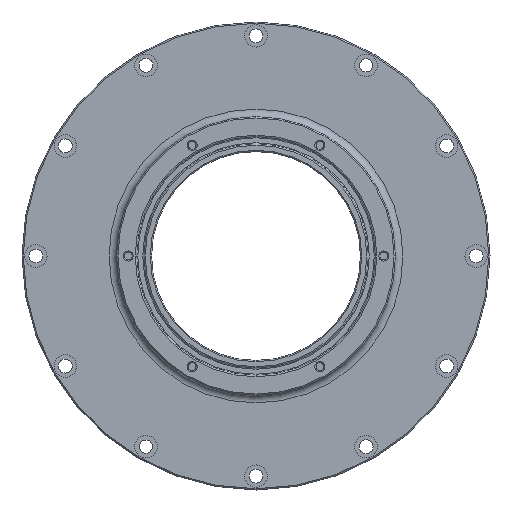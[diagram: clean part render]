
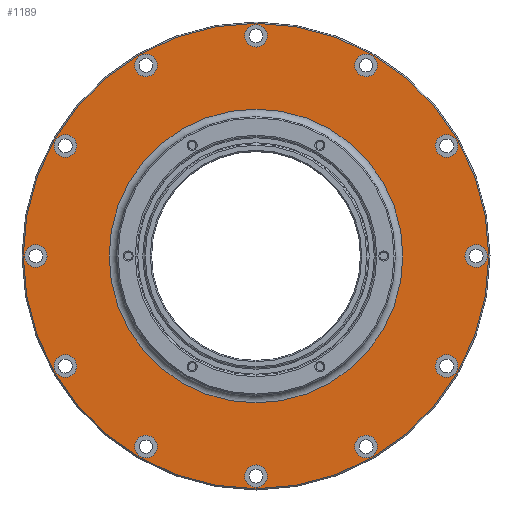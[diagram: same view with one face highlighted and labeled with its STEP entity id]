
A CAD part, left-side view. The second image highlights one B-rep face of the part: STEP entity #1189.
In plain terms, the highlighted planar face has unit normal (-1, 0, 0).
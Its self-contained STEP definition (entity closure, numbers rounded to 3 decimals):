
#849 = VERTEX_POINT('',#850);
#850 = CARTESIAN_POINT('',(0.,150.,41.));
#856 = EDGE_CURVE('',#849,#849,#857,.T.);
#857 = CIRCLE('',#858,92.5);
#858 = AXIS2_PLACEMENT_3D('',#859,#860,#861);
#859 = CARTESIAN_POINT('',(0.,150.,133.5));
#860 = DIRECTION('',(1.,-0.,0.));
#861 = DIRECTION('',(0.,0.,-1.));
#874 = VERTEX_POINT('',#875);
#875 = CARTESIAN_POINT('',(0.,71.973,173.353
    ));
#883 = EDGE_CURVE('',#874,#874,#884,.T.);
#884 = CIRCLE('',#885,4.5);
#885 = AXIS2_PLACEMENT_3D('',#886,#887,#888);
#886 = CARTESIAN_POINT('',(0.,74.223,177.25
    ));
#887 = DIRECTION('',(1.,0.,0.));
#888 = DIRECTION('',(0.,-0.5,-0.866));
#899 = VERTEX_POINT('',#900);
#900 = CARTESIAN_POINT('',(0.,108.5,
    205.38));
#908 = EDGE_CURVE('',#899,#899,#909,.T.);
#909 = CIRCLE('',#910,4.5);
#910 = AXIS2_PLACEMENT_3D('',#911,#912,#913);
#911 = CARTESIAN_POINT('',(0.,106.25,
    209.277));
#912 = DIRECTION('',(1.,-0.,0.));
#913 = DIRECTION('',(0.,0.5,-0.866));
#924 = VERTEX_POINT('',#925);
#925 = CARTESIAN_POINT('',(0.,62.5,129.));
#933 = EDGE_CURVE('',#924,#924,#934,.T.);
#934 = CIRCLE('',#935,4.5);
#935 = AXIS2_PLACEMENT_3D('',#936,#937,#938);
#936 = CARTESIAN_POINT('',(0.,62.5,133.5));
#937 = DIRECTION('',(1.,-0.,0.));
#938 = DIRECTION('',(0.,0.,-1.));
#949 = VERTEX_POINT('',#950);
#950 = CARTESIAN_POINT('',(0.,76.473,
    85.853));
#958 = EDGE_CURVE('',#949,#949,#959,.T.);
#959 = CIRCLE('',#960,4.5);
#960 = AXIS2_PLACEMENT_3D('',#961,#962,#963);
#961 = CARTESIAN_POINT('',(0.,74.223,
    89.75));
#962 = DIRECTION('',(1.,-0.,0.));
#963 = DIRECTION('',(0.,0.5,-0.866));
#974 = VERTEX_POINT('',#975);
#975 = CARTESIAN_POINT('',(0.,104.,53.826
    ));
#983 = EDGE_CURVE('',#974,#974,#984,.T.);
#984 = CIRCLE('',#985,4.5);
#985 = AXIS2_PLACEMENT_3D('',#986,#987,#988);
#986 = CARTESIAN_POINT('',(0.,106.25,57.723
    ));
#987 = DIRECTION('',(1.,0.,0.));
#988 = DIRECTION('',(0.,-0.5,-0.866));
#999 = VERTEX_POINT('',#1000);
#1000 = CARTESIAN_POINT('',(0.,150.,216.5));
#1008 = EDGE_CURVE('',#999,#999,#1009,.T.);
#1009 = CIRCLE('',#1010,4.5);
#1010 = AXIS2_PLACEMENT_3D('',#1011,#1012,#1013);
#1011 = CARTESIAN_POINT('',(0.,150.,221.));
#1012 = DIRECTION('',(1.,-0.,0.));
#1013 = DIRECTION('',(0.,0.,-1.));
#1024 = VERTEX_POINT('',#1025);
#1025 = CARTESIAN_POINT('',(0.,191.5,205.38
    ));
#1033 = EDGE_CURVE('',#1024,#1024,#1034,.T.);
#1034 = CIRCLE('',#1035,4.5);
#1035 = AXIS2_PLACEMENT_3D('',#1036,#1037,#1038);
#1036 = CARTESIAN_POINT('',(0.,193.75,
    209.277));
#1037 = DIRECTION('',(1.,0.,0.));
#1038 = DIRECTION('',(0.,-0.5,-0.866));
#1049 = VERTEX_POINT('',#1050);
#1050 = CARTESIAN_POINT('',(0.,228.027,
    173.353));
#1058 = EDGE_CURVE('',#1049,#1049,#1059,.T.);
#1059 = CIRCLE('',#1060,4.5);
#1060 = AXIS2_PLACEMENT_3D('',#1061,#1062,#1063);
#1061 = CARTESIAN_POINT('',(0.,225.777,
    177.25));
#1062 = DIRECTION('',(1.,-0.,0.));
#1063 = DIRECTION('',(0.,0.5,-0.866));
#1074 = VERTEX_POINT('',#1075);
#1075 = CARTESIAN_POINT('',(0.,150.,41.5));
#1083 = EDGE_CURVE('',#1074,#1074,#1084,.T.);
#1084 = CIRCLE('',#1085,4.5);
#1085 = AXIS2_PLACEMENT_3D('',#1086,#1087,#1088);
#1086 = CARTESIAN_POINT('',(0.,150.,46.));
#1087 = DIRECTION('',(1.,-0.,0.));
#1088 = DIRECTION('',(0.,0.,-1.));
#1099 = VERTEX_POINT('',#1100);
#1100 = CARTESIAN_POINT('',(0.,196.,
    53.826));
#1108 = EDGE_CURVE('',#1099,#1099,#1109,.T.);
#1109 = CIRCLE('',#1110,4.5);
#1110 = AXIS2_PLACEMENT_3D('',#1111,#1112,#1113);
#1111 = CARTESIAN_POINT('',(0.,193.75,
    57.723));
#1112 = DIRECTION('',(1.,-0.,0.));
#1113 = DIRECTION('',(0.,0.5,-0.866));
#1124 = VERTEX_POINT('',#1125);
#1125 = CARTESIAN_POINT('',(0.,237.5,129.));
#1133 = EDGE_CURVE('',#1124,#1124,#1134,.T.);
#1134 = CIRCLE('',#1135,4.5);
#1135 = AXIS2_PLACEMENT_3D('',#1136,#1137,#1138);
#1136 = CARTESIAN_POINT('',(0.,237.5,133.5));
#1137 = DIRECTION('',(1.,-0.,0.));
#1138 = DIRECTION('',(0.,0.,-1.));
#1149 = VERTEX_POINT('',#1150);
#1150 = CARTESIAN_POINT('',(0.,223.527,
    85.853));
#1158 = EDGE_CURVE('',#1149,#1149,#1159,.T.);
#1159 = CIRCLE('',#1160,4.5);
#1160 = AXIS2_PLACEMENT_3D('',#1161,#1162,#1163);
#1161 = CARTESIAN_POINT('',(0.,225.777,
    89.75));
#1162 = DIRECTION('',(1.,0.,0.));
#1163 = DIRECTION('',(0.,-0.5,-0.866));
#1189 = ADVANCED_FACE('',(#1190,#1193,#1196,#1199,#1202,#1205,#1208,
    #1211,#1214,#1217,#1228,#1231,#1234,#1237),#1240,.F.);
#1190 = FACE_BOUND('',#1191,.F.);
#1191 = EDGE_LOOP('',(#1192));
#1192 = ORIENTED_EDGE('',*,*,#856,.T.);
#1193 = FACE_BOUND('',#1194,.F.);
#1194 = EDGE_LOOP('',(#1195));
#1195 = ORIENTED_EDGE('',*,*,#883,.F.);
#1196 = FACE_BOUND('',#1197,.F.);
#1197 = EDGE_LOOP('',(#1198));
#1198 = ORIENTED_EDGE('',*,*,#908,.F.);
#1199 = FACE_BOUND('',#1200,.F.);
#1200 = EDGE_LOOP('',(#1201));
#1201 = ORIENTED_EDGE('',*,*,#933,.F.);
#1202 = FACE_BOUND('',#1203,.F.);
#1203 = EDGE_LOOP('',(#1204));
#1204 = ORIENTED_EDGE('',*,*,#958,.F.);
#1205 = FACE_BOUND('',#1206,.F.);
#1206 = EDGE_LOOP('',(#1207));
#1207 = ORIENTED_EDGE('',*,*,#983,.F.);
#1208 = FACE_BOUND('',#1209,.F.);
#1209 = EDGE_LOOP('',(#1210));
#1210 = ORIENTED_EDGE('',*,*,#1008,.F.);
#1211 = FACE_BOUND('',#1212,.F.);
#1212 = EDGE_LOOP('',(#1213));
#1213 = ORIENTED_EDGE('',*,*,#1033,.F.);
#1214 = FACE_BOUND('',#1215,.F.);
#1215 = EDGE_LOOP('',(#1216));
#1216 = ORIENTED_EDGE('',*,*,#1058,.F.);
#1217 = FACE_BOUND('',#1218,.F.);
#1218 = EDGE_LOOP('',(#1219));
#1219 = ORIENTED_EDGE('',*,*,#1220,.F.);
#1220 = EDGE_CURVE('',#1221,#1221,#1223,.T.);
#1221 = VERTEX_POINT('',#1222);
#1222 = CARTESIAN_POINT('',(0.,150.,75.125));
#1223 = CIRCLE('',#1224,58.375);
#1224 = AXIS2_PLACEMENT_3D('',#1225,#1226,#1227);
#1225 = CARTESIAN_POINT('',(0.,150.,133.5));
#1226 = DIRECTION('',(1.,-0.,0.));
#1227 = DIRECTION('',(0.,0.,-1.));
#1228 = FACE_BOUND('',#1229,.F.);
#1229 = EDGE_LOOP('',(#1230));
#1230 = ORIENTED_EDGE('',*,*,#1083,.F.);
#1231 = FACE_BOUND('',#1232,.F.);
#1232 = EDGE_LOOP('',(#1233));
#1233 = ORIENTED_EDGE('',*,*,#1108,.F.);
#1234 = FACE_BOUND('',#1235,.F.);
#1235 = EDGE_LOOP('',(#1236));
#1236 = ORIENTED_EDGE('',*,*,#1133,.F.);
#1237 = FACE_BOUND('',#1238,.F.);
#1238 = EDGE_LOOP('',(#1239));
#1239 = ORIENTED_EDGE('',*,*,#1158,.F.);
#1240 = PLANE('',#1241);
#1241 = AXIS2_PLACEMENT_3D('',#1242,#1243,#1244);
#1242 = CARTESIAN_POINT('',(0.,150.,133.5));
#1243 = DIRECTION('',(1.,0.,0.));
#1244 = DIRECTION('',(0.,0.,-1.));
